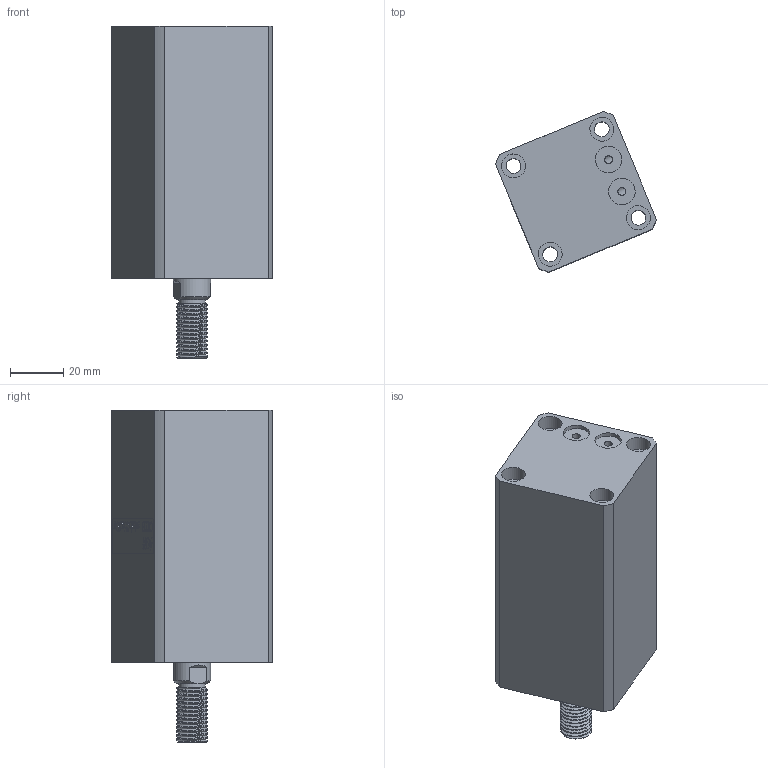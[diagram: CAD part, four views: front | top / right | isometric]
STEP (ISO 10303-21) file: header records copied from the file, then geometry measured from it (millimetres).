
FILE_DESCRIPTION(/* description */ (''),/* implementation_level */ '2;1');
FILE_NAME(/* name */ 'CHTB-sdmb25x50w.stp',/* time_stamp */ '2022-04-29T15:10:07+08:00',/* author */ (''),/* organization */ (''),/* preprocessor_version */ 'ST-DEVELOPER v16.7',/* originating_system */ 'SIEMENS PLM Software NX 12.0',/* authorisation */ '');
FILE_SCHEMA (('AUTOMOTIVE_DESIGN { 1 0 10303 214 3 1 1 1 }'));
Length unit declared in the file: millimetre
Products named in the file (1): CHTB-sdmb25x50w
Bounding box: 60.55 x 60.55 x 125 mm (x, y, z)
Volume: 190857 mm3; surface area: 49826.2 mm2
Topology: 3 solids, 3 shells, 484 faces, 1344 edges, 914 vertices
Faces by surface type: plane 314, extrusion 110, cylinder 44, bspline 10, cone 5, torus 1
Full cylindrical faces by diameter (mm): 3 x4, 4 x2, 5.6 x4, 9 x8, 10 x3, 14 x2, 21 x2, 23 x2, 25 x5, 31 x1
Entity records: 24038 total; most frequent: CARTESIAN_POINT 9652, ORIENTED_EDGE 2580, DIRECTION 1900, EDGE_CURVE 1290, VECTOR 998, VERTEX_POINT 901, LINE 888, EDGE_LOOP 587
